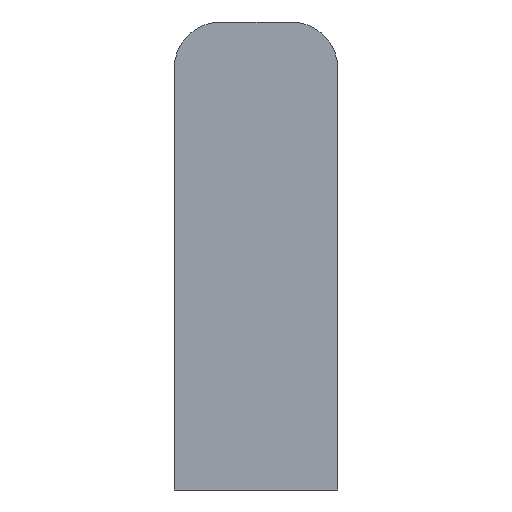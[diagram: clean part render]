
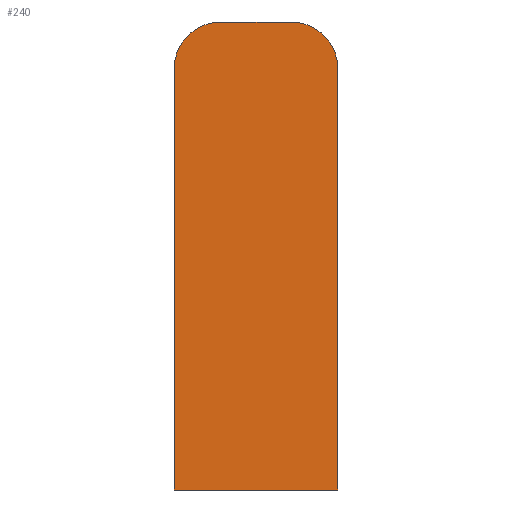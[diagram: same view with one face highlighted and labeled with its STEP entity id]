
A CAD part, front view. The second image highlights one B-rep face of the part: STEP entity #240.
In plain terms, the highlighted planar face has unit normal (0, -1, 0).
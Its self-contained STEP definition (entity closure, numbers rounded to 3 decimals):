
#3 = VERTEX_POINT ( 'NONE', #13 ) ;
#4 = VERTEX_POINT ( 'NONE', #82 ) ;
#6 = VERTEX_POINT ( 'NONE', #81 ) ;
#13 = CARTESIAN_POINT ( 'NONE',  ( 2.25, 0., 13.5 ) ) ;
#27 = AXIS2_PLACEMENT_3D ( 'NONE', #106, #109, #110 ) ;
#39 = EDGE_CURVE ( 'NONE', #6, #84, #374, .T. ) ;
#42 = EDGE_CURVE ( 'NONE', #3, #6, #406, .T. ) ;
#57 = EDGE_CURVE ( 'NONE', #84, #4, #396, .T. ) ;
#58 = EDGE_CURVE ( 'NONE', #168, #77, #381, .T. ) ;
#60 = AXIS2_PLACEMENT_3D ( 'NONE', #136, #148, #149 ) ;
#62 = EDGE_CURVE ( 'NONE', #77, #3, #384, .T. ) ;
#63 = EDGE_CURVE ( 'NONE', #4, #168, #380, .T. ) ;
#68 = AXIS2_PLACEMENT_3D ( 'NONE', #178, #181, #182 ) ;
#77 = VERTEX_POINT ( 'NONE', #175 ) ;
#81 = CARTESIAN_POINT ( 'NONE',  ( -2.25, 0., 13.5 ) ) ;
#82 = CARTESIAN_POINT ( 'NONE',  ( -5.25, 0., -16.5 ) ) ;
#84 = VERTEX_POINT ( 'NONE', #142 ) ;
#106 = CARTESIAN_POINT ( 'NONE',  ( -2.25, 0., 10.5 ) ) ;
#109 = DIRECTION ( 'NONE',  ( 0., -1., 0. ) ) ;
#110 = DIRECTION ( 'NONE',  ( -1., 0., 0. ) ) ;
#115 = CARTESIAN_POINT ( 'NONE',  ( 2.25, 0., 13.5 ) ) ;
#116 = DIRECTION ( 'NONE',  ( -1., 0., 0. ) ) ;
#135 = CARTESIAN_POINT ( 'NONE',  ( -5.25, 0., -16.5 ) ) ;
#136 = CARTESIAN_POINT ( 'NONE',  ( 2.25, 0., 10.5 ) ) ;
#139 = DIRECTION ( 'NONE',  ( 0., 0., -1. ) ) ;
#140 = CARTESIAN_POINT ( 'NONE',  ( 5.25, 0., -16.5 ) ) ;
#141 = DIRECTION ( 'NONE',  ( 0., 0., 1. ) ) ;
#142 = CARTESIAN_POINT ( 'NONE',  ( -5.25, 0., 10.5 ) ) ;
#148 = DIRECTION ( 'NONE',  ( 0., -1., 0. ) ) ;
#149 = DIRECTION ( 'NONE',  ( -1., 0., 0. ) ) ;
#150 = CARTESIAN_POINT ( 'NONE',  ( 5.25, 0., -16.5 ) ) ;
#154 = DIRECTION ( 'NONE',  ( 1., 0., 0. ) ) ;
#155 = CARTESIAN_POINT ( 'NONE',  ( 5.25, 0., -16.5 ) ) ;
#168 = VERTEX_POINT ( 'NONE', #150 ) ;
#175 = CARTESIAN_POINT ( 'NONE',  ( 5.25, 0., 10.5 ) ) ;
#178 = CARTESIAN_POINT ( 'NONE',  ( 0., 0., -1.5 ) ) ;
#179 = PLANE ( 'NONE',  #68 ) ;
#181 = DIRECTION ( 'NONE',  ( 0., 1., 0. ) ) ;
#182 = DIRECTION ( 'NONE',  ( -1., 0., 0. ) ) ;
#240 = ADVANCED_FACE ( 'NONE', ( #342 ), #179, .F. ) ;
#254 = EDGE_LOOP ( 'NONE', ( #312, #287, #261, #272, #322, #327 ) ) ;
#261 = ORIENTED_EDGE ( 'NONE', *, *, #42, .T. ) ;
#272 = ORIENTED_EDGE ( 'NONE', *, *, #39, .T. ) ;
#287 = ORIENTED_EDGE ( 'NONE', *, *, #62, .T. ) ;
#312 = ORIENTED_EDGE ( 'NONE', *, *, #58, .T. ) ;
#322 = ORIENTED_EDGE ( 'NONE', *, *, #57, .T. ) ;
#327 = ORIENTED_EDGE ( 'NONE', *, *, #63, .T. ) ;
#342 = FACE_OUTER_BOUND ( 'NONE', #254, .T. ) ;
#360 = VECTOR ( 'NONE', #154, 1000. ) ;
#366 = VECTOR ( 'NONE', #141, 1000. ) ;
#374 = CIRCLE ( 'NONE', #27, 3. ) ;
#379 = VECTOR ( 'NONE', #139, 1000. ) ;
#380 = LINE ( 'NONE', #155, #360 ) ;
#381 = LINE ( 'NONE', #140, #366 ) ;
#384 = CIRCLE ( 'NONE', #60, 3. ) ;
#396 = LINE ( 'NONE', #135, #379 ) ;
#405 = VECTOR ( 'NONE', #116, 1000. ) ;
#406 = LINE ( 'NONE', #115, #405 ) ;
